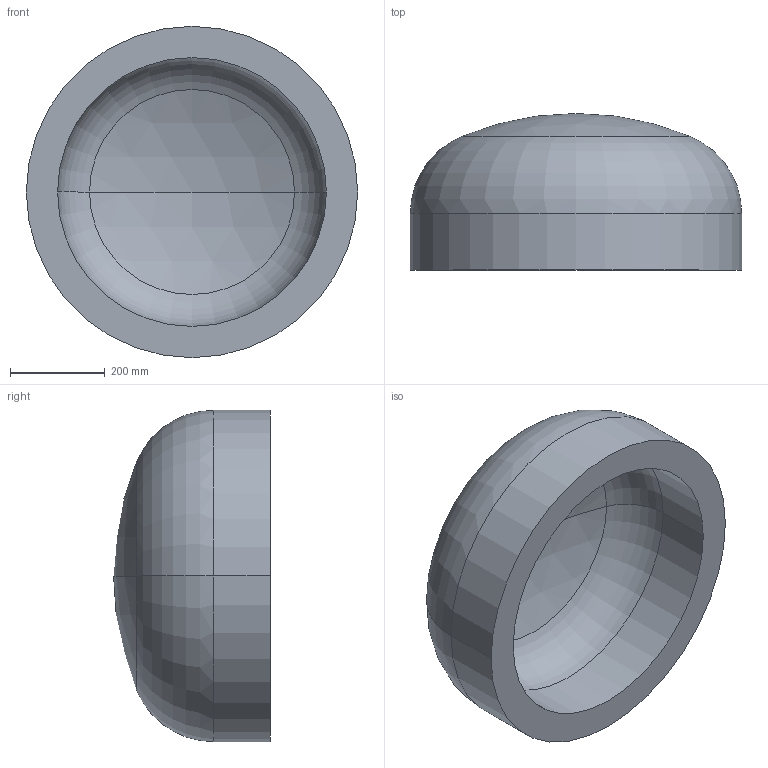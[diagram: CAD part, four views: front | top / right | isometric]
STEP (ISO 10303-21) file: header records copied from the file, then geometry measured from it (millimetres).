
FILE_DESCRIPTION (( 'STEP AP203' ), '1' );
FILE_NAME ('DIN 28013 Korbbogenform_-_Boden DIN 28013 - 700 x 120 - I - s=66.step', '2016-07-01T08:09:50', ( '' ), ( '' ), 'SwSTEP 2.0', 'SolidWorks 2013', '' );
FILE_SCHEMA (( 'CONFIG_CONTROL_DESIGN' ));
Length unit declared in the file: millimetre
Products named in the file (1): DIN 28013 Korbbogenform_-_Boden DIN 28013 - 700 x 120 - I - s=66
Bounding box: 700 x 331 x 700 mm (x, y, z)
Volume: 47199591 mm3; surface area: 1570870.4 mm2
Topology: 1 solids, 1 shells, 13 faces, 24 edges, 14 vertices
Faces by surface type: torus 4, cylinder 4, sphere 4, plane 1
Entity records: 407 total; most frequent: DIRECTION 72, CARTESIAN_POINT 52, ORIENTED_EDGE 48, AXIS2_PLACEMENT_3D 34, EDGE_CURVE 24, CIRCLE 20, VERTEX_POINT 14, EDGE_LOOP 14
